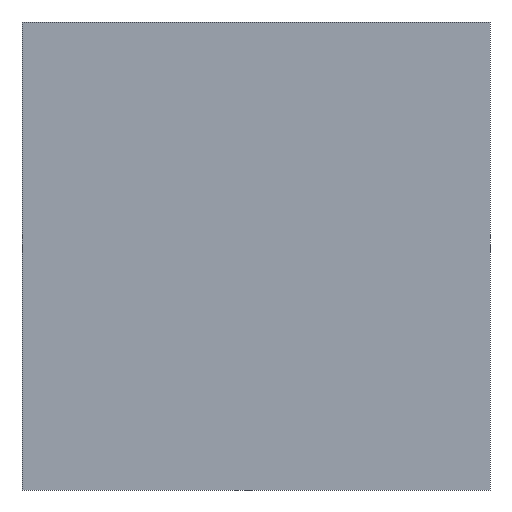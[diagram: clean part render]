
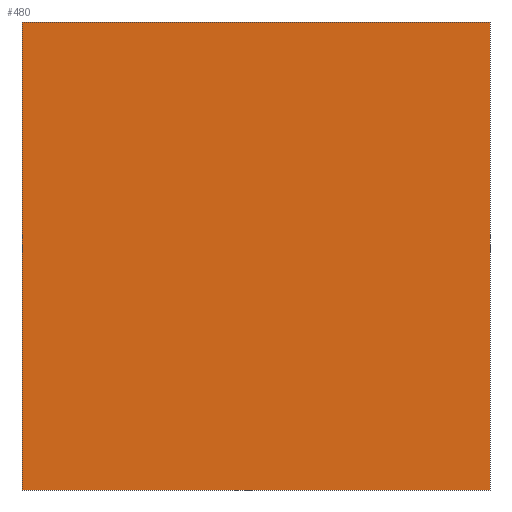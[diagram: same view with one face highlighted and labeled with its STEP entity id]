
A CAD part, front view. The second image highlights one B-rep face of the part: STEP entity #480.
In plain terms, the highlighted planar face has unit normal (0, -1, 0).
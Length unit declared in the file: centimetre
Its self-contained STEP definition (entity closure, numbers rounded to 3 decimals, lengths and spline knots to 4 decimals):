
#10 = VECTOR ( 'NONE', #333, 100. ) ;
#19 = ORIENTED_EDGE ( 'NONE', *, *, #287, .F. ) ;
#21 = VECTOR ( 'NONE', #344, 100. ) ;
#63 = ORIENTED_EDGE ( 'NONE', *, *, #602, .T. ) ;
#153 = CARTESIAN_POINT ( 'NONE',  ( 1000., 0., 0. ) ) ;
#191 = VERTEX_POINT ( 'NONE', #153 ) ;
#199 = LINE ( 'NONE', #426, #649 ) ;
#286 = EDGE_LOOP ( 'NONE', ( #63, #684, #19, #296 ) ) ;
#287 = EDGE_CURVE ( 'NONE', #355, #676, #403, .T. ) ;
#296 = ORIENTED_EDGE ( 'NONE', *, *, #641, .T. ) ;
#326 = LINE ( 'NONE', #498, #411 ) ;
#333 = DIRECTION ( 'NONE',  ( 1., 0., 0. ) ) ;
#340 = AXIS2_PLACEMENT_3D ( 'NONE', #537, #379, #420 ) ;
#344 = DIRECTION ( 'NONE',  ( 1., 0., 0. ) ) ;
#355 = VERTEX_POINT ( 'NONE', #510 ) ;
#379 = DIRECTION ( 'NONE',  ( 0., 1., 0. ) ) ;
#386 = DIRECTION ( 'NONE',  ( 0., 0., -1. ) ) ;
#403 = LINE ( 'NONE', #461, #21 ) ;
#411 = VECTOR ( 'NONE', #386, 100. ) ;
#420 = DIRECTION ( 'NONE',  ( 0., 0., 1. ) ) ;
#426 = CARTESIAN_POINT ( 'NONE',  ( 1000., 0., 1000. ) ) ;
#461 = CARTESIAN_POINT ( 'NONE',  ( 0., 0., 1000. ) ) ;
#480 = ADVANCED_FACE ( 'NONE', ( #593 ), #582, .F. ) ;
#493 = CARTESIAN_POINT ( 'NONE',  ( 0., 0., 0. ) ) ;
#498 = CARTESIAN_POINT ( 'NONE',  ( 0., 0., 1000. ) ) ;
#510 = CARTESIAN_POINT ( 'NONE',  ( 0., 0., 1000. ) ) ;
#534 = EDGE_CURVE ( 'NONE', #676, #191, #199, .T. ) ;
#537 = CARTESIAN_POINT ( 'NONE',  ( 0., 0., 1000. ) ) ;
#560 = VERTEX_POINT ( 'NONE', #598 ) ;
#582 = PLANE ( 'NONE',  #340 ) ;
#593 = FACE_OUTER_BOUND ( 'NONE', #286, .T. ) ;
#598 = CARTESIAN_POINT ( 'NONE',  ( 0., 0., 0. ) ) ;
#602 = EDGE_CURVE ( 'NONE', #560, #191, #665, .T. ) ;
#639 = DIRECTION ( 'NONE',  ( 0., 0., -1. ) ) ;
#641 = EDGE_CURVE ( 'NONE', #355, #560, #326, .T. ) ;
#649 = VECTOR ( 'NONE', #639, 100. ) ;
#665 = LINE ( 'NONE', #493, #10 ) ;
#676 = VERTEX_POINT ( 'NONE', #714 ) ;
#684 = ORIENTED_EDGE ( 'NONE', *, *, #534, .F. ) ;
#714 = CARTESIAN_POINT ( 'NONE',  ( 1000., 0., 1000. ) ) ;
